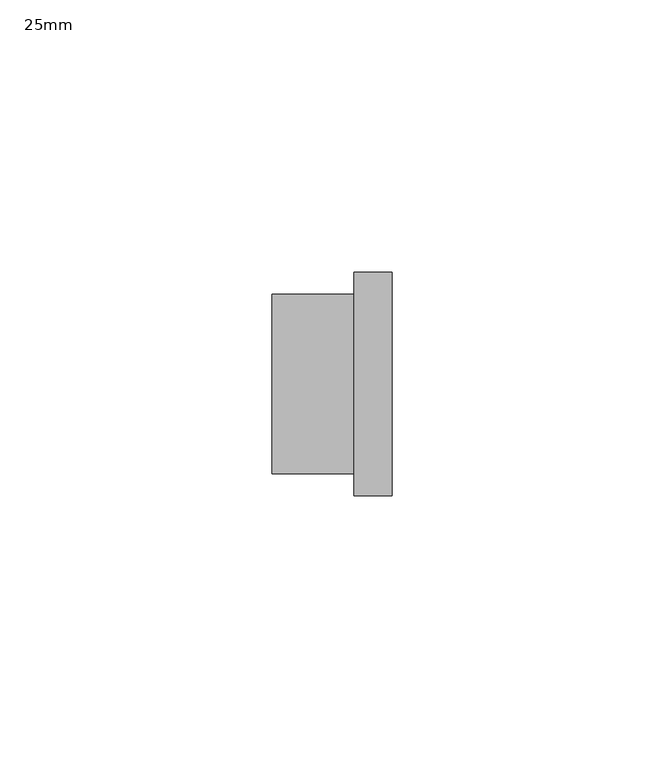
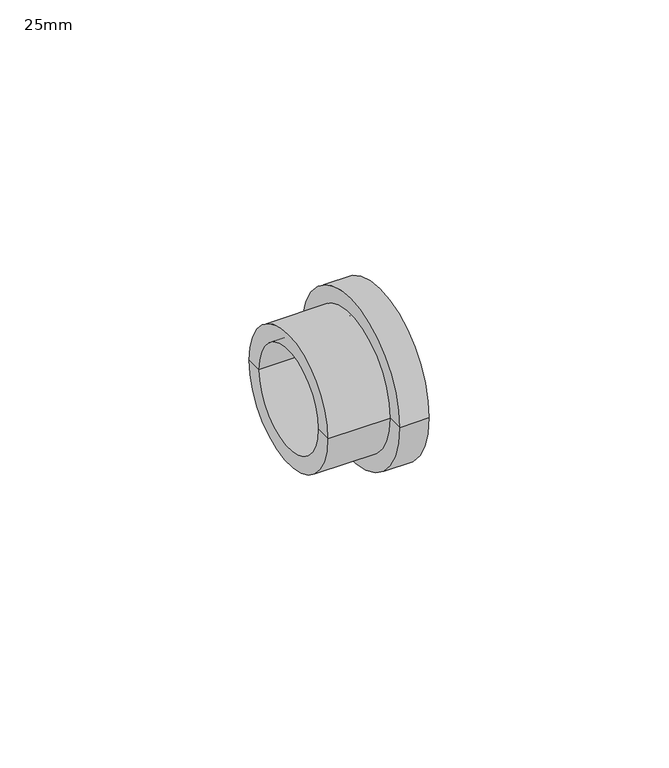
"""IFC4 building model written with IfcOpenShell, lengths in millimetres: pipe fitting geometry, Durapipe_PipeFitting_PVC_StubFlange : 25mm."""

from ifc_helpers import new_model, si_unit, frame, origin, place, context, project, spatial, polyline, circle_curve, source, transform, mapped, element, save
from ifc_brep_helpers import plane_surface, cylinder_surface, revolved_surface, advanced_brep


def pipe_fitting_25mm_a70d380e(model_context):
    return source(origin(), model_context, "Body", "AdvancedBrep", [
        advanced_brep(
        [(11.0, -20.5, 0.0), (11.0, 20.5, 0.0), (11.0, 10.0, 0.0), (11.0, -10.0, 0.0), (4.0, -20.5, 0.0), (4.0, 20.5, 0.0), (4.0, -16.5, 0.0), (4.0, 16.5, 0.0), (-11.0, -16.5, 0.0), (-11.0, 16.5, 0.0), (-11.0, -12.5, 0.0), (-11.0, 12.5, 0.0), (8.0, 10.0, 0.0), (8.0, -10.0, 0.0), (8.0, -12.5, 0.0), (8.0, 12.5, 0.0)],
        [
            (0, 1, circle_curve(frame((11.0, 0.0, 0.0), z_axis=(1.0, 0.0, 0.0), x_axis=(0.0, 1.0, 0.0)), 20.5)),
            (1, 2),
            (2, 3, circle_curve(frame((11.0, 0.0, 0.0), z_axis=(-1.0, 0.0, 0.0), x_axis=(0.0, 1.0, 0.0)), 10.0)),
            (3, 0),
            (1, 0, circle_curve(frame((11.0, 0.0, 0.0), z_axis=(1.0, 0.0, 0.0), x_axis=(0.0, 1.0, 0.0)), 20.5)),
            (3, 2, circle_curve(frame((11.0, 0.0, 0.0), z_axis=(-1.0, 0.0, 0.0), x_axis=(0.0, 1.0, 0.0)), 10.0)),
            (0, 4),
            (4, 5, circle_curve(frame((4.0, 0.0, 0.0), z_axis=(1.0, 0.0, 0.0), x_axis=(0.0, 1.0, 0.0)), 20.5)),
            (5, 1),
            (5, 4, circle_curve(frame((4.0, 0.0, 0.0), z_axis=(1.0, 0.0, 0.0), x_axis=(0.0, 1.0, 0.0)), 20.5)),
            (4, 6),
            (6, 7, circle_curve(frame((4.0, 0.0, 0.0), z_axis=(1.0, 0.0, 0.0), x_axis=(0.0, 1.0, 0.0)), 16.5)),
            (7, 5),
            (7, 6, circle_curve(frame((4.0, 0.0, 0.0), z_axis=(1.0, 0.0, 0.0), x_axis=(0.0, 1.0, 0.0)), 16.5)),
            (6, 8),
            (8, 9, circle_curve(frame((-11.0, 0.0, 0.0), z_axis=(1.0, 0.0, 0.0), x_axis=(0.0, 1.0, 0.0)), 16.5)),
            (9, 7),
            (9, 8, circle_curve(frame((-11.0, 0.0, 0.0), z_axis=(1.0, 0.0, 0.0), x_axis=(0.0, 1.0, 0.0)), 16.5)),
            (8, 10),
            (10, 11, circle_curve(frame((-11.0, 0.0, 0.0), z_axis=(1.0, 0.0, 0.0), x_axis=(0.0, 1.0, 0.0)), 12.5)),
            (11, 9),
            (11, 10, circle_curve(frame((-11.0, 0.0, 0.0), z_axis=(1.0, 0.0, 0.0), x_axis=(0.0, 1.0, 0.0)), 12.5)),
            (2, 12),
            (12, 13, circle_curve(frame((8.0, 0.0, 0.0), z_axis=(-1.0, 0.0, 0.0), x_axis=(0.0, 1.0, 0.0)), 10.0)),
            (13, 3),
            (13, 12, circle_curve(frame((8.0, 0.0, 0.0), z_axis=(-1.0, 0.0, 0.0), x_axis=(0.0, 1.0, 0.0)), 10.0)),
            (10, 14),
            (14, 15, circle_curve(frame((8.0, 0.0, 0.0), z_axis=(1.0, 0.0, 0.0), x_axis=(0.0, 1.0, 0.0)), 12.5)),
            (15, 11),
            (15, 14, circle_curve(frame((8.0, 0.0, 0.0), z_axis=(1.0, 0.0, 0.0), x_axis=(0.0, 1.0, 0.0)), 12.5)),
            (14, 13),
            (12, 15),
        ],
        [
            plane_surface(frame((11.0, 0.0, 0.0), z_axis=(1.0, 0.0, 0.0), x_axis=(0.0, 1.0, 0.0))),
            cylinder_surface(frame((14.1035546, 0.0, 0.0), z_axis=(-1.0, 0.0, 0.0), x_axis=(0.0, 1.0, 0.0)), 20.5),
            plane_surface(frame((4.0, 0.0, 0.0), z_axis=(-1.0, 0.0, 0.0), x_axis=(0.0, 1.0, 0.0))),
            cylinder_surface(frame((14.1035546, 0.0, 0.0), z_axis=(-1.0, 0.0, 0.0), x_axis=(0.0, 1.0, 0.0)), 16.5),
            plane_surface(frame((-11.0, 0.0, 0.0), z_axis=(-1.0, 0.0, 0.0), x_axis=(0.0, 1.0, 0.0))),
            revolved_surface(polyline([(8.0, 10.0, 0.0), (11.0, 10.0, 0.0)]), (14.1035546, 0.0, 0.0), (-1.0, 0.0, 0.0)),
            revolved_surface(polyline([(-11.0, 12.5, 0.0), (7.999999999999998, 12.5, 0.0)]), (-12.8250714, 0.0, 0.0), (-1.0, 0.0, 0.0)),
            plane_surface(frame((8.0, 0.0, 0.0), z_axis=(-1.0, 0.0, 0.0), x_axis=(0.0, 1.0, 0.0))),
        ],
        [
            (0, [[1, 2, 3, 4]]),
            (0, [[-2, 5, -4, 6]]),
            (1, [[-1, 7, 8, 9]]),
            (1, [[-5, -9, 10, -7]]),
            (2, [[-8, 11, 12, 13]]),
            (2, [[-10, -13, 14, -11]]),
            (3, [[-12, 15, 16, 17]]),
            (3, [[-14, -17, 18, -15]]),
            (4, [[-16, 19, 20, 21]]),
            (4, [[-18, -21, 22, -19]]),
            (5, [[-3, 23, 24, 25]]),
            (5, [[-6, -25, 26, -23]]),
            (6, [[27, 28, 29, -20]]),
            (6, [[-27, -22, -29, 30]]),
            (7, [[-28, 31, -24, 32]]),
            (7, [[-30, -32, -26, -31]]),
        ],
    ),
    ])


if __name__ == "__main__":
    model = new_model("IFC4")
    model_context = context("Model", 3, world=origin())
    ifc_project = project(units=[si_unit("LENGTHUNIT", "METRE", prefix="MILLI")], contexts=[model_context])
    site = spatial("IfcSite", under=ifc_project)
    building = spatial("IfcBuilding", under=site)
    placement = place(None, origin())
    pipe_fitting_25mm_shape = pipe_fitting_25mm_a70d380e(model_context)
    element("IfcPipeFitting", 1, ObjectType="Durapipe_PipeFitting_PVC_StubFlange : 25mm", at=placement, inside=building, context=model_context, shape_type="MappedRepresentation", body=[
        mapped(pipe_fitting_25mm_shape, transform((0.0, 0.0, 0.0), x_axis=(1.0, 0.0, 0.0), y_axis=(0.0, 1.0, 0.0), z_axis=(0.0, 0.0, 1.0))),
    ])
    save(model, "model.ifc")
